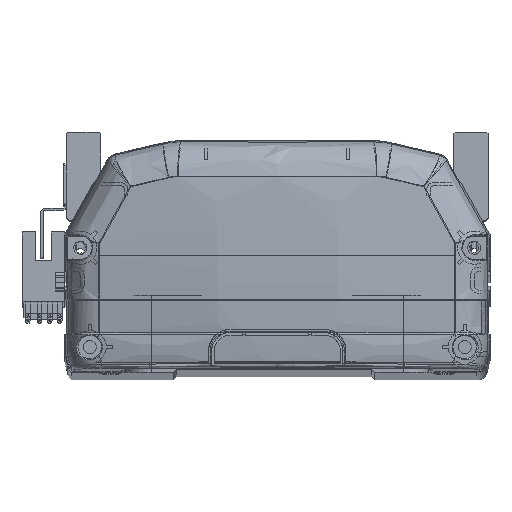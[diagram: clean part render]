
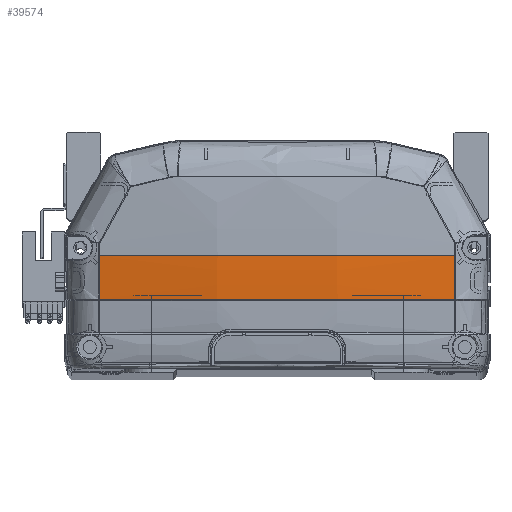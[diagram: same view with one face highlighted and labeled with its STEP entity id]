
A CAD part, top view. The second image highlights one B-rep face of the part: STEP entity #39574.
In plain terms, the highlighted free-form (B-spline) face has degree [3, 3] with [4, 4] control points.
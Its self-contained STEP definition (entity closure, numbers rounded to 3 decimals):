
#1598 = DIRECTION ( 'NONE',  ( -1., 0., 0. ) ) ;
#2049 = CARTESIAN_POINT ( 'NONE',  ( -56.661, 22.225, -4.818 ) ) ;
#2105 = CIRCLE ( 'NONE', #10528, 6395.966 ) ;
#2478 = DIRECTION ( 'NONE',  ( 0., 0., -1. ) ) ;
#4980 = EDGE_CURVE ( 'NONE', #35819, #32794, #2105, .T. ) ;
#5117 = VERTEX_POINT ( 'NONE', #39141 ) ;
#5351 = CARTESIAN_POINT ( 'NONE',  ( 6452.613, 35.969, -5.158 ) ) ;
#5492 = CARTESIAN_POINT ( 'NONE',  ( 47.432, 22.225, -6.377 ) ) ;
#5656 = CARTESIAN_POINT ( 'NONE',  ( 8.363, 22.225, -9.48 ) ) ;
#5780 = CARTESIAN_POINT ( 'NONE',  ( -19.295, 31.274, -11.535 ) ) ;
#6554 = CARTESIAN_POINT ( 'NONE',  ( 0., 36., 330.833 ) ) ;
#8571 = CARTESIAN_POINT ( 'NONE',  ( 19.295, 21.828, -11.186 ) ) ;
#8679 = CARTESIAN_POINT ( 'NONE',  ( 56.661, 22.225, -4.818 ) ) ;
#8767 = CARTESIAN_POINT ( 'NONE',  ( -19.28, 22.225, -9.565 ) ) ;
#9182 = VERTEX_POINT ( 'NONE', #37282 ) ;
#9258 = CARTESIAN_POINT ( 'NONE',  ( 23.877, 22.225, -8.763 ) ) ;
#9563 = EDGE_LOOP ( 'NONE', ( #38730, #41165, #29973, #29431, #23519 ) ) ;
#10528 = AXIS2_PLACEMENT_3D ( 'NONE', #5351, #43210, #1598 ) ;
#12313 = CARTESIAN_POINT ( 'NONE',  ( 19.295, 36., -11.535 ) ) ;
#12569 = CARTESIAN_POINT ( 'NONE',  ( 56.647, 36., -5.158 ) ) ;
#12811 = CARTESIAN_POINT ( 'NONE',  ( 57.335, 36., -5.042 ) ) ;
#13170 = CARTESIAN_POINT ( 'NONE',  ( 19.121, 22.225, -9.064 ) ) ;
#13763 = CARTESIAN_POINT ( 'NONE',  ( -57.335, 26.762, -4.928 ) ) ;
#14079 = B_SPLINE_CURVE_WITH_KNOTS ( 'NONE', 3,
 ( #8679, #20375, #39188, #16806 ),
 .UNSPECIFIED., .F., .F.,
 ( 4, 4 ),
 ( 0., 1. ),
 .UNSPECIFIED. ) ;
#16518 = CARTESIAN_POINT ( 'NONE',  ( 19.295, 31.274, -11.535 ) ) ;
#16806 = CARTESIAN_POINT ( 'NONE',  ( 56.647, 35.969, -5.158 ) ) ;
#16889 = CARTESIAN_POINT ( 'NONE',  ( 2.357, 22.225, -9.562 ) ) ;
#17805 = EDGE_CURVE ( 'NONE', #32794, #9182, #20870, .T. ) ;
#18596 = B_SPLINE_CURVE_WITH_KNOTS ( 'NONE', 3,
 ( #27807, #5492, #31587, #9258, #13170, #46621, #5656, #39277, #16889, #43029, #8767, #20625, #2049 ),
 .UNSPECIFIED., .F., .F.,
 ( 4, 2, 2, 1, 2, 2, 4 ),
 ( 0., 0.25, 0.375, 0.438, 0.469, 0.5, 1. ),
 .UNSPECIFIED. ) ;
#19663 = EDGE_CURVE ( 'NONE', #9182, #5117, #37258, .T. ) ;
#20271 = CARTESIAN_POINT ( 'NONE',  ( -19.295, 26.549, -11.419 ) ) ;
#20375 = CARTESIAN_POINT ( 'NONE',  ( 56.652, 26.806, -5.044 ) ) ;
#20625 = CARTESIAN_POINT ( 'NONE',  ( -38.235, 22.225, -7.93 ) ) ;
#20769 =( BOUNDED_SURFACE ( )  B_SPLINE_SURFACE ( 3, 3, ( 
 ( #27775, #24010, #30870, #12811 ),
 ( #8571, #34652, #16518, #12313 ),
 ( #42666, #20271, #5780, #32186 ),
 ( #24827, #13763, #21075, #46891 ) ),
 .UNSPECIFIED., .F., .F., .F. ) 
 B_SPLINE_SURFACE_WITH_KNOTS ( ( 4, 4 ),
 ( 4, 4 ),
 ( 0., 1. ),
 ( 0., 1. ),
 .UNSPECIFIED. ) 
 GEOMETRIC_REPRESENTATION_ITEM ( )  RATIONAL_B_SPLINE_SURFACE ( (
 ( 1., 1., 1., 1.),
 ( 0.99, 0.99, 0.99, 0.99),
 ( 0.99, 0.99, 0.99, 0.99),
 ( 1., 1., 1., 1.) ) ) 
 REPRESENTATION_ITEM ( '' )  SURFACE ( )  );
#20870 = CIRCLE ( 'NONE', #39732, 340.733 ) ;
#21075 = CARTESIAN_POINT ( 'NONE',  ( -57.335, 31.38, -5.042 ) ) ;
#21353 = CARTESIAN_POINT ( 'NONE',  ( -56.647, 36., -5.158 ) ) ;
#23519 = ORIENTED_EDGE ( 'NONE', *, *, #19663, .F. ) ;
#24010 = CARTESIAN_POINT ( 'NONE',  ( 57.335, 26.762, -4.928 ) ) ;
#24827 = CARTESIAN_POINT ( 'NONE',  ( -57.335, 22.148, -4.7 ) ) ;
#24981 = DIRECTION ( 'NONE',  ( 0., 1., 0. ) ) ;
#26742 = CARTESIAN_POINT ( 'NONE',  ( 56.661, 22.225, -4.818 ) ) ;
#27775 = CARTESIAN_POINT ( 'NONE',  ( 57.335, 22.148, -4.7 ) ) ;
#27807 = CARTESIAN_POINT ( 'NONE',  ( 56.661, 22.225, -4.818 ) ) ;
#28828 = CARTESIAN_POINT ( 'NONE',  ( -56.647, 31.405, -5.158 ) ) ;
#29144 = CARTESIAN_POINT ( 'NONE',  ( -56.661, 22.225, -4.818 ) ) ;
#29431 = ORIENTED_EDGE ( 'NONE', *, *, #30609, .T. ) ;
#29973 = ORIENTED_EDGE ( 'NONE', *, *, #35407, .F. ) ;
#30504 = FACE_OUTER_BOUND ( 'NONE', #9563, .T. ) ;
#30609 = EDGE_CURVE ( 'NONE', #38335, #5117, #18596, .T. ) ;
#30870 = CARTESIAN_POINT ( 'NONE',  ( 57.335, 31.38, -5.042 ) ) ;
#31587 = CARTESIAN_POINT ( 'NONE',  ( 38.071, 22.225, -7.566 ) ) ;
#32186 = CARTESIAN_POINT ( 'NONE',  ( -19.295, 36., -11.535 ) ) ;
#32794 = VERTEX_POINT ( 'NONE', #12569 ) ;
#34652 = CARTESIAN_POINT ( 'NONE',  ( 19.295, 26.549, -11.419 ) ) ;
#35407 = EDGE_CURVE ( 'NONE', #38335, #35819, #14079, .T. ) ;
#35819 = VERTEX_POINT ( 'NONE', #42889 ) ;
#36369 = CARTESIAN_POINT ( 'NONE',  ( -56.652, 26.814, -5.045 ) ) ;
#37258 = B_SPLINE_CURVE_WITH_KNOTS ( 'NONE', 3,
 ( #21353, #28828, #36369, #29144 ),
 .UNSPECIFIED., .F., .F.,
 ( 4, 4 ),
 ( 0., 1. ),
 .UNSPECIFIED. ) ;
#37282 = CARTESIAN_POINT ( 'NONE',  ( -56.647, 36., -5.158 ) ) ;
#38335 = VERTEX_POINT ( 'NONE', #26742 ) ;
#38730 = ORIENTED_EDGE ( 'NONE', *, *, #17805, .F. ) ;
#39141 = CARTESIAN_POINT ( 'NONE',  ( -56.661, 22.225, -4.818 ) ) ;
#39188 = CARTESIAN_POINT ( 'NONE',  ( 56.647, 31.387, -5.158 ) ) ;
#39277 = CARTESIAN_POINT ( 'NONE',  ( 4.761, 22.225, -9.537 ) ) ;
#39574 = ADVANCED_FACE ( 'NONE', ( #30504 ), #20769, .T. ) ;
#39732 = AXIS2_PLACEMENT_3D ( 'NONE', #6554, #24981, #2478 ) ;
#41165 = ORIENTED_EDGE ( 'NONE', *, *, #4980, .F. ) ;
#42666 = CARTESIAN_POINT ( 'NONE',  ( -19.295, 21.828, -11.186 ) ) ;
#42889 = CARTESIAN_POINT ( 'NONE',  ( 56.647, 35.969, -5.158 ) ) ;
#43029 = CARTESIAN_POINT ( 'NONE',  ( 1.152, 22.225, -9.568 ) ) ;
#43210 = DIRECTION ( 'NONE',  ( 0., 0., -1. ) ) ;
#46621 = CARTESIAN_POINT ( 'NONE',  ( 11.954, 22.225, -9.367 ) ) ;
#46891 = CARTESIAN_POINT ( 'NONE',  ( -57.335, 36., -5.042 ) ) ;
